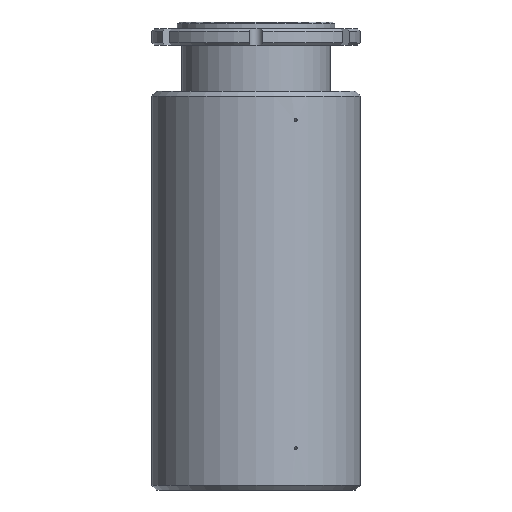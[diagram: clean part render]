
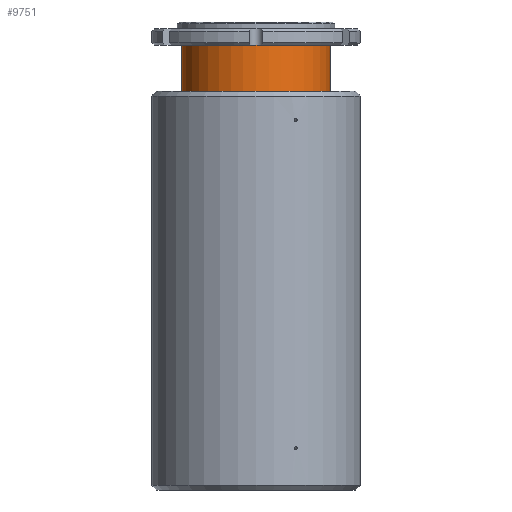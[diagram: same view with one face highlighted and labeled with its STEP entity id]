
A CAD part, front view. The second image highlights one B-rep face of the part: STEP entity #9751.
In plain terms, the highlighted cylindrical face has radius 50.8 mm (diameter 101.6 mm), a partial arc.
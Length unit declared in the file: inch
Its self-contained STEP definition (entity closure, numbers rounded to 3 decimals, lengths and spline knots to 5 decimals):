
#2005 = EDGE_LOOP ( 'NONE', ( #4607, #4606, #4605, #4604 ) ) ;
#2151 = CARTESIAN_POINT ( 'NONE',  ( 2., 0., -1.87405 ) ) ;
#2156 = CARTESIAN_POINT ( 'NONE',  ( 2., 0., -0.624 ) ) ;
#2157 = CARTESIAN_POINT ( 'NONE',  ( -2., 0., -0.624 ) ) ;
#2159 = CARTESIAN_POINT ( 'NONE',  ( -2., 0., -1.87405 ) ) ;
#2324 = VERTEX_POINT ( 'NONE', #2151 ) ;
#2329 = VERTEX_POINT ( 'NONE', #2156 ) ;
#2330 = VERTEX_POINT ( 'NONE', #2157 ) ;
#2332 = VERTEX_POINT ( 'NONE', #2159 ) ;
#2642 = EDGE_CURVE ( 'NONE', #2324, #2329, #11559, .T. ) ;
#2796 = EDGE_CURVE ( 'NONE', #2330, #2329, #6003, .T. ) ;
#2803 = EDGE_CURVE ( 'NONE', #2332, #2330, #8433, .T. ) ;
#4604 = ORIENTED_EDGE ( 'NONE', *, *, #2796, .F. ) ;
#4605 = ORIENTED_EDGE ( 'NONE', *, *, #2642, .T. ) ;
#4606 = ORIENTED_EDGE ( 'NONE', *, *, #9753, .T. ) ;
#4607 = ORIENTED_EDGE ( 'NONE', *, *, #2803, .F. ) ;
#5884 = VECTOR ( 'NONE', #11563, 39.37008 ) ;
#5987 = AXIS2_PLACEMENT_3D ( 'NONE', #9511, #9507, #9512 ) ;
#5997 = AXIS2_PLACEMENT_3D ( 'NONE', #9516, #9517, #9518 ) ;
#6003 = CIRCLE ( 'NONE', #6200, 2. ) ;
#6065 = CIRCLE ( 'NONE', #5997, 2. ) ;
#6156 = VECTOR ( 'NONE', #8437, 39.37008 ) ;
#6200 = AXIS2_PLACEMENT_3D ( 'NONE', #8417, #8418, #8419 ) ;
#8417 = CARTESIAN_POINT ( 'NONE',  ( 0., 0., -0.624 ) ) ;
#8418 = DIRECTION ( 'NONE',  ( 0., 0., 1. ) ) ;
#8419 = DIRECTION ( 'NONE',  ( 1., 0., 0. ) ) ;
#8425 = CARTESIAN_POINT ( 'NONE',  ( -2., 0., 0. ) ) ;
#8433 = LINE ( 'NONE', #8425, #6156 ) ;
#8437 = DIRECTION ( 'NONE',  ( 0., 0., 1. ) ) ;
#9507 = DIRECTION ( 'NONE',  ( 0., 0., 1. ) ) ;
#9509 = CYLINDRICAL_SURFACE ( 'NONE', #5987, 2. ) ;
#9510 = FACE_OUTER_BOUND ( 'NONE', #2005, .T. ) ;
#9511 = CARTESIAN_POINT ( 'NONE',  ( 0., 0., 0. ) ) ;
#9512 = DIRECTION ( 'NONE',  ( 1., 0., 0. ) ) ;
#9516 = CARTESIAN_POINT ( 'NONE',  ( 0., 0., -1.87405 ) ) ;
#9517 = DIRECTION ( 'NONE',  ( 0., 0., 1. ) ) ;
#9518 = DIRECTION ( 'NONE',  ( 1., 0., 0. ) ) ;
#9751 = ADVANCED_FACE ( 'NONE', ( #9510 ), #9509, .T. ) ;
#9753 = EDGE_CURVE ( 'NONE', #2332, #2324, #6065, .T. ) ;
#11555 = CARTESIAN_POINT ( 'NONE',  ( 2., 0., 0. ) ) ;
#11559 = LINE ( 'NONE', #11555, #5884 ) ;
#11563 = DIRECTION ( 'NONE',  ( 0., 0., 1. ) ) ;
